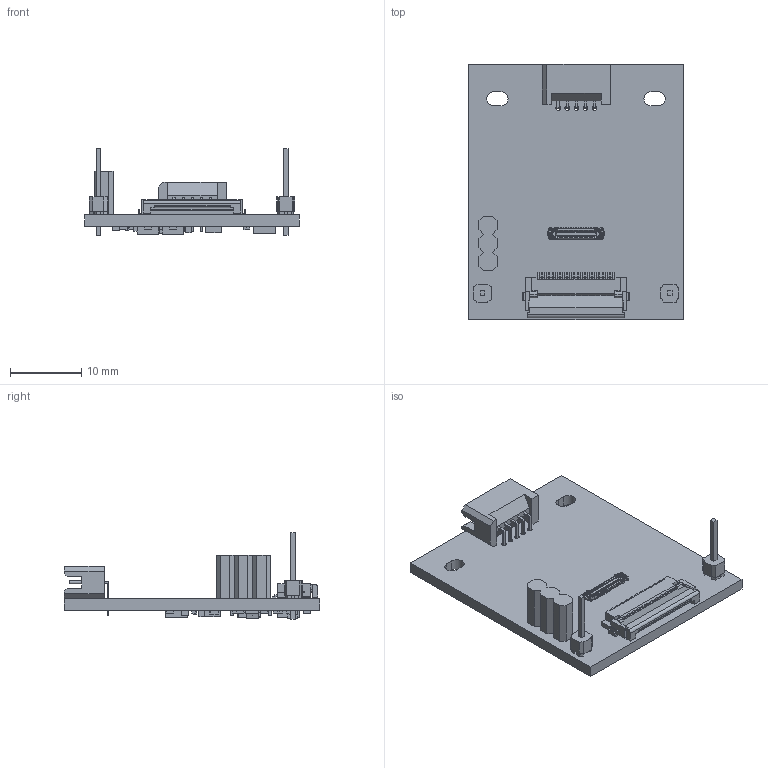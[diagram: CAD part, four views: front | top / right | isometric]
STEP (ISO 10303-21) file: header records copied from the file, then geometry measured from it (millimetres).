
FILE_DESCRIPTION(/* description */ (''),/* implementation_level */ '2;1');
FILE_NAME(/* name */ 'PCB4280D.step',/* time_stamp */ '2024-06-11T10:57:51+02:00',/* author */ (''),/* organization */ (''),/* preprocessor_version */ 'ST-DEVELOPER v19.2',/* originating_system */ 'Autodesk Translation Framework v12.6.0.85',/* authorisation */ '');
FILE_SCHEMA (('AUTOMOTIVE_DESIGN { 1 0 10303 214 3 1 1 }'));
Products named in the file (50): (Unsaved); PCB4280D; Open CASCADE STEP translator 7.5 1; Open CASCADE STEP translator 7.5 2; Open CASCADE STEP translator 7.5 3; Open CASCADE STEP translator 7.5 4; Open CASCADE STEP translator 7.5 5; Open CASCADE STEP translator 7.5 6; Open CASCADE STEP translator 7.5 7; Open CASCADE STEP translator 7.5 8; Open CASCADE STEP translator 7.5 9; Open CASCADE STEP translator 7.5 10; Open CASCADE STEP translator 7.5 11; Open CASCADE STEP translator 7.5 12; Open CASCADE STEP translator 7.5 13; Open CASCADE STEP translator 7.5 14; Open CASCADE STEP translator 7.5 15; Open CASCADE STEP translator 7.5 16; Open CASCADE STEP translator 7.5 17; Open CASCADE STEP translator 7.5 18; Open CASCADE STEP translator 7.5 19; Open CASCADE STEP translator 7.5 20; Open CASCADE STEP translator 7.5 21; Open CASCADE STEP translator 7.5 26; Open CASCADE STEP translator 7.5 27; Open CASCADE STEP translator 7.5 28; Open CASCADE STEP translator 7.5 29; Open CASCADE STEP translator 7.5 30; Open CASCADE STEP translator 7.5 31; Open CASCADE STEP translator 7.5 32; Open CASCADE STEP translator 7.5 33; Open CASCADE STEP translator 7.5 34; Open CASCADE STEP translator 7.5 35; Open CASCADE STEP translator 7.5 36; Open CASCADE STEP translator 7.5 37; Open CASCADE STEP translator 7.5 38; Open CASCADE STEP translator 7.5 39; Open CASCADE STEP translator 7.5 40; Open CASCADE STEP translator 7.5 41; Open CASCADE STEP translator 7.5 42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
Assembly tree (49 placements, depth 3):
  (Unsaved)
    PCB4280D
      Open CASCADE STEP translator 7.5 1
      Open CASCADE STEP translator 7.5 2
      Open CASCADE STEP translator 7.5 3
      Open CASCADE STEP translator 7.5 4
      Open CASCADE STEP translator 7.5 5
      Open CASCADE STEP translator 7.5 6
      Open CASCADE STEP translator 7.5 7
      Open CASCADE STEP translator 7.5 8
      Open CASCADE STEP translator 7.5 9
      Open CASCADE STEP translator 7.5 10
      Open CASCADE STEP translator 7.5 11
      Open CASCADE STEP translator 7.5 12
      Open CASCADE STEP translator 7.5 13
      Open CASCADE STEP translator 7.5 14
      Open CASCADE STEP translator 7.5 15
      Open CASCADE STEP translator 7.5 16
      Open CASCADE STEP translator 7.5 17
      Open CASCADE STEP translator 7.5 18
      Open CASCADE STEP translator 7.5 19
      Open CASCADE STEP translator 7.5 20
      Open CASCADE STEP translator 7.5 21
      Open CASCADE STEP translator 7.5 26
      Open CASCADE STEP translator 7.5 27
      Open CASCADE STEP translator 7.5 28
      Open CASCADE STEP translator 7.5 29
      Open CASCADE STEP translator 7.5 30
      Open CASCADE STEP translator 7.5 31
      Open CASCADE STEP translator 7.5 32
      Open CASCADE STEP translator 7.5 33
      Open CASCADE STEP translator 7.5 34
      Open CASCADE STEP translator 7.5 35
      Open CASCADE STEP translator 7.5 36
      Open CASCADE STEP translator 7.5 37
      Open CASCADE STEP translator 7.5 38
      Open CASCADE STEP translator 7.5 39
      Open CASCADE STEP translator 7.5 40
      Open CASCADE STEP translator 7.5 41
      Open CASCADE STEP translator 7.5 42
      Open CASCADE STEP translator 7.5 43
      Open CASCADE STEP translator 7.5 44
      Open CASCADE STEP translator 7.5 45
      Open CASCADE STEP translator 7.5 46
      Open CASCADE STEP translator 7.5 47
      Open CASCADE STEP translator 7.5 48
      Open CASCADE STEP translator 7.5 49
      Open CASCADE STEP translator 7.5 50
      Open CASCADE STEP translator 7.5 51
      Open CASCADE STEP translator 7.5 52
Bounding box: 30 x 35.7 x 12.15 mm (x, y, z)
Volume: 2154.3 mm3; surface area: 3804.9 mm2
Topology: 65 solids, 65 shells, 3260 faces, 8884 edges, 5750 vertices
Faces by surface type: plane 2687, cylinder 485, cone 72, bspline 16
Full cylindrical faces by diameter (mm): 0.457 x5, 0.65 x5, 1 x5
Entity records: 104927 total; most frequent: CARTESIAN_POINT 20105, ORIENTED_EDGE 17760, DIRECTION 16628, EDGE_CURVE 8880, LINE 7698, VECTOR 7698, VERTEX_POINT 5750, AXIS2_PLACEMENT_3D 4465
